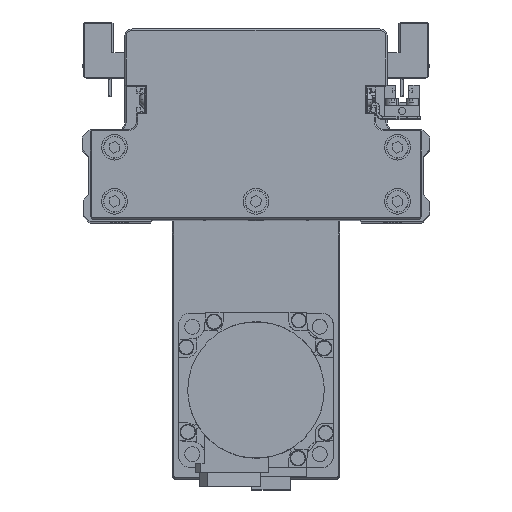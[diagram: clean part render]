
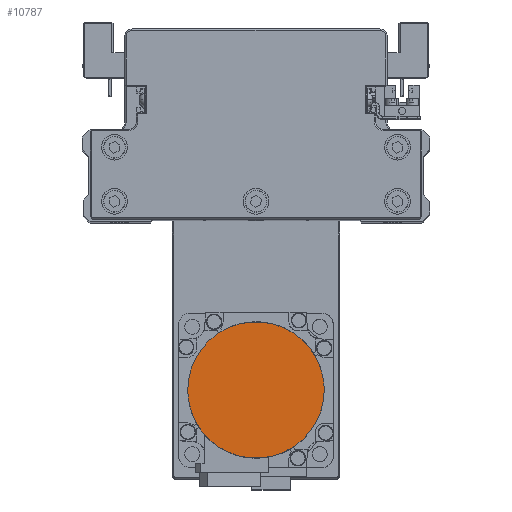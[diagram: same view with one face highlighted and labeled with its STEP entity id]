
A CAD part, top view. The second image highlights one B-rep face of the part: STEP entity #10787.
In plain terms, the highlighted planar face has unit normal (0, 0, 1) as drawn and (0, 0, -1) by its records, which use the part's own axes.
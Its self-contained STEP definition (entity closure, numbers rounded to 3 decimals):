
#1204 = CARTESIAN_POINT ( 'NONE',  ( -19.965, -17.512, -109.7 ) ) ;
#1405 = CARTESIAN_POINT ( 'NONE',  ( 11.744, -23.819, -109.7 ) ) ;
#1827 = ORIENTED_EDGE ( 'NONE', *, *, #33225, .F. ) ;
#2531 = CARTESIAN_POINT ( 'NONE',  ( 0., 0., -109.7 ) ) ;
#2603 = CARTESIAN_POINT ( 'NONE',  ( 16.165, 21.07, -109.7 ) ) ;
#2802 = CARTESIAN_POINT ( 'NONE',  ( -16.165, 21.07, -109.7 ) ) ;
#4232 = CARTESIAN_POINT ( 'NONE',  ( -23.819, -11.744, -109.7 ) ) ;
#4432 = CARTESIAN_POINT ( 'NONE',  ( 3.469, -26.329, -109.7 ) ) ;
#4640 = CARTESIAN_POINT ( 'NONE',  ( 26.329, -3.469, -109.7 ) ) ;
#5631 = CARTESIAN_POINT ( 'NONE',  ( 21.07, 16.165, -109.7 ) ) ;
#5835 = CARTESIAN_POINT ( 'NONE',  ( -8.539, 25.147, -109.7 ) ) ;
#6038 = CARTESIAN_POINT ( 'NONE',  ( -26.5, 0., -109.7 ) ) ;
#7041 = AXIS2_PLACEMENT_3D ( 'NONE', #2531, #14802, #27027 ) ;
#7253 = CARTESIAN_POINT ( 'NONE',  ( -26.329, -3.469, -109.7 ) ) ;
#7441 = CARTESIAN_POINT ( 'NONE',  ( -3.469, -26.329, -109.7 ) ) ;
#7648 = CARTESIAN_POINT ( 'NONE',  ( 23.819, -11.744, -109.7 ) ) ;
#8644 = CARTESIAN_POINT ( 'NONE',  ( 25.147, 8.539, -109.7 ) ) ;
#8839 = CARTESIAN_POINT ( 'NONE',  ( -1.734, 26.5, -109.7 ) ) ;
#9037 = CARTESIAN_POINT ( 'NONE',  ( -25.652, 6.871, -109.7 ) ) ;
#10476 = CARTESIAN_POINT ( 'NONE',  ( -11.744, -23.819, -109.7 ) ) ;
#10668 = CARTESIAN_POINT ( 'NONE',  ( 19.965, -17.512, -109.7 ) ) ;
#10787 = ADVANCED_FACE ( 'NONE', ( #17809 ), #30051, .F. ) ;
#11036 = VERTEX_POINT ( 'NONE', #35031 ) ;
#11659 = CARTESIAN_POINT ( 'NONE',  ( 26.5, 1.734, -109.7 ) ) ;
#11859 = CARTESIAN_POINT ( 'NONE',  ( 6.871, 25.652, -109.7 ) ) ;
#12055 = CARTESIAN_POINT ( 'NONE',  ( -22.998, 13.28, -109.7 ) ) ;
#13486 = CARTESIAN_POINT ( 'NONE',  ( -17.512, -19.965, -109.7 ) ) ;
#13687 = CARTESIAN_POINT ( 'NONE',  ( 13.28, -22.998, -109.7 ) ) ;
#14802 = DIRECTION ( 'NONE',  ( 0., 0., 1. ) ) ;
#14876 = CARTESIAN_POINT ( 'NONE',  ( 13.28, 22.998, -109.7 ) ) ;
#15007 = VERTEX_POINT ( 'NONE', #16854 ) ;
#15078 = CARTESIAN_POINT ( 'NONE',  ( -17.512, 19.965, -109.7 ) ) ;
#16492 = CARTESIAN_POINT ( 'NONE',  ( -22.998, -13.28, -109.7 ) ) ;
#16691 = CARTESIAN_POINT ( 'NONE',  ( 6.871, -25.652, -109.7 ) ) ;
#16854 = CARTESIAN_POINT ( 'NONE',  ( 26.5, 0., -109.7 ) ) ;
#16899 = CARTESIAN_POINT ( 'NONE',  ( 26.5, -1.734, -109.7 ) ) ;
#17809 = FACE_OUTER_BOUND ( 'NONE', #20989, .T. ) ;
#17882 = CARTESIAN_POINT ( 'NONE',  ( 19.965, 17.512, -109.7 ) ) ;
#18082 = CARTESIAN_POINT ( 'NONE',  ( -11.744, 23.819, -109.7 ) ) ;
#19498 = CARTESIAN_POINT ( 'NONE',  ( -25.652, -6.871, -109.7 ) ) ;
#19692 = CARTESIAN_POINT ( 'NONE',  ( -1.734, -26.5, -109.7 ) ) ;
#19896 = CARTESIAN_POINT ( 'NONE',  ( 25.147, -8.539, -109.7 ) ) ;
#20895 = CARTESIAN_POINT ( 'NONE',  ( 23.819, 11.744, -109.7 ) ) ;
#20930 = B_SPLINE_CURVE_WITH_KNOTS ( 'NONE', 3,
 ( #22516, #34757, #7253, #19498, #31736, #4232, #16492, #28717, #1204, #13486, #25723, #37952, #10476, #22711, #34950, #7441, #19692, #31939, #4432, #16691, #28919, #1405, #13687, #25926, #38146, #10668, #22908, #35151, #7648, #19896, #32136, #4640, #16899, #29123 ),
 .UNSPECIFIED., .F., .F.,
 ( 4, 2, 2, 2, 2, 2, 2, 2, 2, 2, 2, 2, 2, 2, 2, 2, 4 ),
 ( 0., 0.063, 0.125, 0.188, 0.25, 0.312, 0.375, 0.437, 0.5, 0.562, 0.625, 0.687, 0.75, 0.813, 0.875, 0.938, 1. ),
 .UNSPECIFIED. ) ;
#20989 = EDGE_LOOP ( 'NONE', ( #1827, #32117 ) ) ;
#21095 = CARTESIAN_POINT ( 'NONE',  ( -3.469, 26.329, -109.7 ) ) ;
#21290 = CARTESIAN_POINT ( 'NONE',  ( -26.329, 3.469, -109.7 ) ) ;
#22516 = CARTESIAN_POINT ( 'NONE',  ( -26.5, 0., -109.7 ) ) ;
#22711 = CARTESIAN_POINT ( 'NONE',  ( -8.539, -25.147, -109.7 ) ) ;
#22908 = CARTESIAN_POINT ( 'NONE',  ( 21.07, -16.165, -109.7 ) ) ;
#23913 = CARTESIAN_POINT ( 'NONE',  ( 26.329, 3.469, -109.7 ) ) ;
#24103 = CARTESIAN_POINT ( 'NONE',  ( 3.469, 26.329, -109.7 ) ) ;
#24302 = CARTESIAN_POINT ( 'NONE',  ( -23.819, 11.744, -109.7 ) ) ;
#25101 = B_SPLINE_CURVE_WITH_KNOTS ( 'NONE', 3,
 ( #39146, #11659, #23913, #36148, #8644, #20895, #33128, #5631, #17882, #30128, #2603, #14876, #27107, #39346, #11859, #24103, #36342, #8839, #21095, #33337, #5835, #18082, #30326, #2802, #15078, #27294, #39544, #12055, #24302, #36540, #9037, #21290, #33537, #6038 ),
 .UNSPECIFIED., .F., .F.,
 ( 4, 2, 2, 2, 2, 2, 2, 2, 2, 2, 2, 2, 2, 2, 2, 2, 4 ),
 ( 0., 0.062, 0.125, 0.187, 0.25, 0.312, 0.375, 0.437, 0.5, 0.562, 0.625, 0.687, 0.75, 0.813, 0.875, 0.938, 1. ),
 .UNSPECIFIED. ) ;
#25723 = CARTESIAN_POINT ( 'NONE',  ( -16.165, -21.07, -109.7 ) ) ;
#25926 = CARTESIAN_POINT ( 'NONE',  ( 16.165, -21.07, -109.7 ) ) ;
#27027 = DIRECTION ( 'NONE',  ( 1., 0., 0. ) ) ;
#27107 = CARTESIAN_POINT ( 'NONE',  ( 11.744, 23.819, -109.7 ) ) ;
#27294 = CARTESIAN_POINT ( 'NONE',  ( -19.965, 17.512, -109.7 ) ) ;
#28717 = CARTESIAN_POINT ( 'NONE',  ( -21.07, -16.165, -109.7 ) ) ;
#28919 = CARTESIAN_POINT ( 'NONE',  ( 8.539, -25.147, -109.7 ) ) ;
#29123 = CARTESIAN_POINT ( 'NONE',  ( 26.5, 0., -109.7 ) ) ;
#30051 = PLANE ( 'NONE',  #7041 ) ;
#30128 = CARTESIAN_POINT ( 'NONE',  ( 17.512, 19.965, -109.7 ) ) ;
#30326 = CARTESIAN_POINT ( 'NONE',  ( -13.28, 22.998, -109.7 ) ) ;
#31736 = CARTESIAN_POINT ( 'NONE',  ( -25.147, -8.539, -109.7 ) ) ;
#31939 = CARTESIAN_POINT ( 'NONE',  ( 1.734, -26.5, -109.7 ) ) ;
#32117 = ORIENTED_EDGE ( 'NONE', *, *, #38601, .F. ) ;
#32136 = CARTESIAN_POINT ( 'NONE',  ( 25.652, -6.871, -109.7 ) ) ;
#33128 = CARTESIAN_POINT ( 'NONE',  ( 22.998, 13.28, -109.7 ) ) ;
#33225 = EDGE_CURVE ( 'NONE', #15007, #11036, #25101, .T. ) ;
#33337 = CARTESIAN_POINT ( 'NONE',  ( -6.871, 25.652, -109.7 ) ) ;
#33537 = CARTESIAN_POINT ( 'NONE',  ( -26.5, 1.734, -109.7 ) ) ;
#34757 = CARTESIAN_POINT ( 'NONE',  ( -26.5, -1.734, -109.7 ) ) ;
#34950 = CARTESIAN_POINT ( 'NONE',  ( -6.871, -25.652, -109.7 ) ) ;
#35031 = CARTESIAN_POINT ( 'NONE',  ( -26.5, 0., -109.7 ) ) ;
#35151 = CARTESIAN_POINT ( 'NONE',  ( 22.998, -13.28, -109.7 ) ) ;
#36148 = CARTESIAN_POINT ( 'NONE',  ( 25.652, 6.871, -109.7 ) ) ;
#36342 = CARTESIAN_POINT ( 'NONE',  ( 1.734, 26.5, -109.7 ) ) ;
#36540 = CARTESIAN_POINT ( 'NONE',  ( -25.147, 8.539, -109.7 ) ) ;
#37952 = CARTESIAN_POINT ( 'NONE',  ( -13.28, -22.998, -109.7 ) ) ;
#38146 = CARTESIAN_POINT ( 'NONE',  ( 17.512, -19.965, -109.7 ) ) ;
#38601 = EDGE_CURVE ( 'NONE', #11036, #15007, #20930, .T. ) ;
#39146 = CARTESIAN_POINT ( 'NONE',  ( 26.5, 0., -109.7 ) ) ;
#39346 = CARTESIAN_POINT ( 'NONE',  ( 8.539, 25.147, -109.7 ) ) ;
#39544 = CARTESIAN_POINT ( 'NONE',  ( -21.07, 16.165, -109.7 ) ) ;
